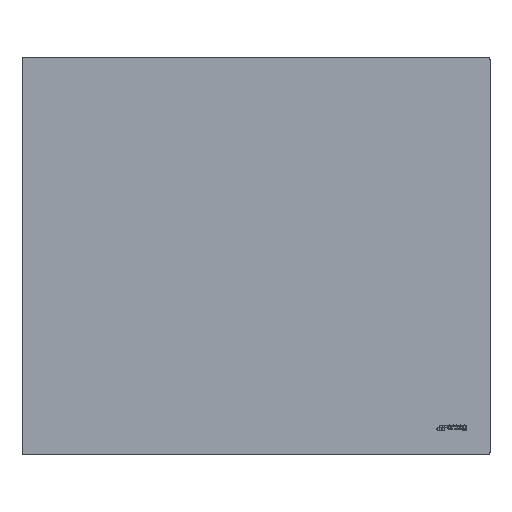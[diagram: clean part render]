
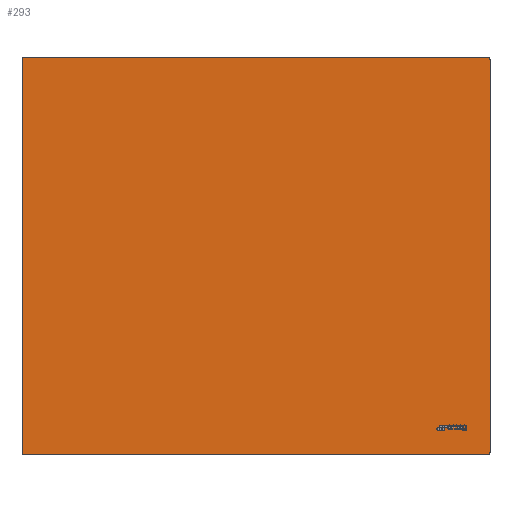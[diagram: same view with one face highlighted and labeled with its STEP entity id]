
A CAD part, top view. The second image highlights one B-rep face of the part: STEP entity #293.
In plain terms, the highlighted planar face has unit normal (0, 0, 1).
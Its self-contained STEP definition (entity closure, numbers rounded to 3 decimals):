
#239=CIRCLE('',#1653,3.);
#240=CIRCLE('',#1654,3.);
#241=CIRCLE('',#1655,3.);
#242=CIRCLE('',#1656,3.);
#293=ADVANCED_FACE('',(#447),#388,.T.);
#388=PLANE('',#1657);
#447=FACE_OUTER_BOUND('',#529,.T.);
#529=EDGE_LOOP('',(#649,#650,#651,#652,#653,#654,#655,#656));
#649=ORIENTED_EDGE('',*,*,#1191,.T.);
#650=ORIENTED_EDGE('',*,*,#1193,.T.);
#651=ORIENTED_EDGE('',*,*,#1177,.T.);
#652=ORIENTED_EDGE('',*,*,#1194,.T.);
#653=ORIENTED_EDGE('',*,*,#1181,.T.);
#654=ORIENTED_EDGE('',*,*,#1195,.T.);
#655=ORIENTED_EDGE('',*,*,#1187,.T.);
#656=ORIENTED_EDGE('',*,*,#1196,.T.);
#1037=VERTEX_POINT('',#2195);
#1038=VERTEX_POINT('',#2196);
#1041=VERTEX_POINT('',#2204);
#1042=VERTEX_POINT('',#2205);
#1047=VERTEX_POINT('',#2216);
#1048=VERTEX_POINT('',#2218);
#1051=VERTEX_POINT('',#2225);
#1052=VERTEX_POINT('',#2227);
#1177=EDGE_CURVE('',#1037,#1038,#1379,.T.);
#1181=EDGE_CURVE('',#1041,#1042,#1383,.T.);
#1187=EDGE_CURVE('',#1048,#1047,#1389,.T.);
#1191=EDGE_CURVE('',#1052,#1051,#1393,.T.);
#1193=EDGE_CURVE('',#1051,#1037,#239,.T.);
#1194=EDGE_CURVE('',#1038,#1041,#240,.T.);
#1195=EDGE_CURVE('',#1042,#1048,#241,.T.);
#1196=EDGE_CURVE('',#1047,#1052,#242,.T.);
#1379=LINE('',#2194,#1508);
#1383=LINE('',#2203,#1512);
#1389=LINE('',#2217,#1518);
#1393=LINE('',#2226,#1522);
#1508=VECTOR('',#1785,1.);
#1512=VECTOR('',#1791,1.);
#1518=VECTOR('',#1799,1.);
#1522=VECTOR('',#1805,1.);
#1653=AXIS2_PLACEMENT_3D('',#2230,#1809,#1810);
#1654=AXIS2_PLACEMENT_3D('',#2231,#1811,#1812);
#1655=AXIS2_PLACEMENT_3D('',#2232,#1813,#1814);
#1656=AXIS2_PLACEMENT_3D('',#2233,#1815,#1816);
#1657=AXIS2_PLACEMENT_3D('',#2234,#1817,#1818);
#1785=DIRECTION('',(0.,-1.,0.));
#1791=DIRECTION('',(1.,0.,0.));
#1799=DIRECTION('',(0.,1.,0.));
#1805=DIRECTION('',(-1.,0.,0.));
#1809=DIRECTION('',(0.,0.,1.));
#1810=DIRECTION('',(1.,0.,0.));
#1811=DIRECTION('',(0.,0.,1.));
#1812=DIRECTION('',(1.,0.,0.));
#1813=DIRECTION('',(0.,0.,1.));
#1814=DIRECTION('',(1.,0.,0.));
#1815=DIRECTION('',(0.,0.,1.));
#1816=DIRECTION('',(1.,0.,0.));
#1817=DIRECTION('',(0.,0.,1.));
#1818=DIRECTION('',(1.,0.,0.));
#2194=CARTESIAN_POINT('',(-300.,255.,39.));
#2195=CARTESIAN_POINT('',(-300.,252.,39.));
#2196=CARTESIAN_POINT('',(-300.,-252.,39.));
#2203=CARTESIAN_POINT('',(-300.,-255.,39.));
#2204=CARTESIAN_POINT('',(-297.,-255.,39.));
#2205=CARTESIAN_POINT('',(297.,-255.,39.));
#2216=CARTESIAN_POINT('',(300.,252.,39.));
#2217=CARTESIAN_POINT('',(300.,-255.,39.));
#2218=CARTESIAN_POINT('',(300.,-252.,39.));
#2225=CARTESIAN_POINT('',(-297.,255.,39.));
#2226=CARTESIAN_POINT('',(300.,255.,39.));
#2227=CARTESIAN_POINT('',(297.,255.,39.));
#2230=CARTESIAN_POINT('',(-297.,252.,39.));
#2231=CARTESIAN_POINT('',(-297.,-252.,39.));
#2232=CARTESIAN_POINT('',(297.,-252.,39.));
#2233=CARTESIAN_POINT('',(297.,252.,39.));
#2234=CARTESIAN_POINT('',(0.,-255.,39.));
